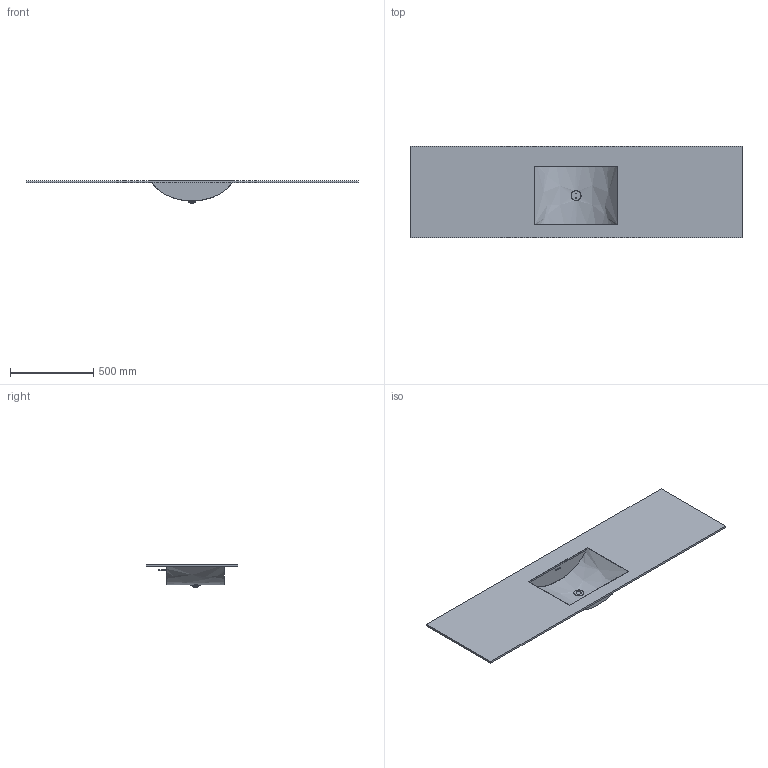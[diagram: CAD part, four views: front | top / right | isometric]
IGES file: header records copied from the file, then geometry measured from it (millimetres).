
Start section:  Autodesk Design for Windows version 2010 IGES version 5.3  Autodesk Design for Windows version 2010 IGES version 5.3
Global section: file name: D:\Desktop\GIOVANNI\SCHEDE PRODOTTO\PIANI LAVABO\CONCAVO\3D\MOMA DESIGN_PIANI LAVABO_CONCAVO MODULE.igs; native system: Rhinoceros ( Jan 17 2018 ); preprocessor: Trout Lake IGES 012 Jan 17 2018; date: 230606.074024; units: millimetre
Bounding box: 2000 x 550 x 132.73 mm (x, y, z)
Surface area: 2228559.3 mm2 (no closed solid volume)
Topology: 0 solids, 0 shells, 38 faces, 367 edges, 355 vertices
Faces by surface type: bspline 38
